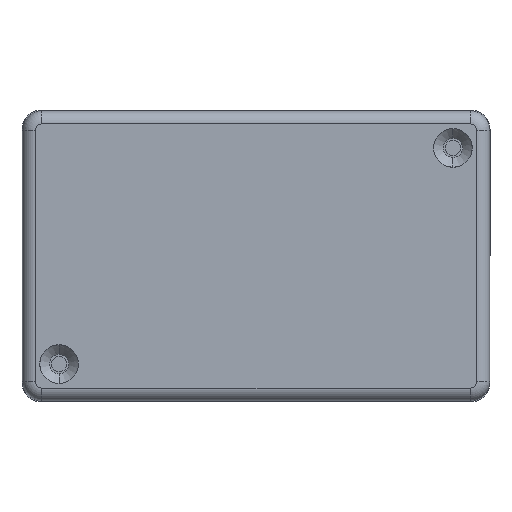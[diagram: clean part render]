
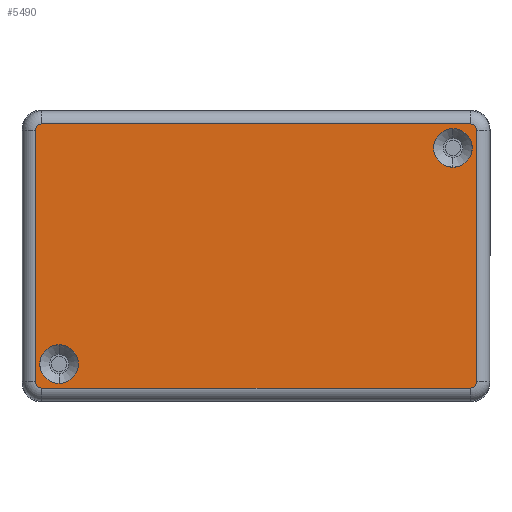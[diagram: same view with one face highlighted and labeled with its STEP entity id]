
A CAD part, front view. The second image highlights one B-rep face of the part: STEP entity #5490.
In plain terms, the highlighted planar face has unit normal (0, -1, 0).
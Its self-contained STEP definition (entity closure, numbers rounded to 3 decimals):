
#17 = DIRECTION ( 'NONE',  ( 0., -1., 0. ) ) ;
#66 = ORIENTED_EDGE ( 'NONE', *, *, #991, .T. ) ;
#67 = VERTEX_POINT ( 'NONE', #5310 ) ;
#123 = VECTOR ( 'NONE', #941, 1000. ) ;
#192 = DIRECTION ( 'NONE',  ( 0., 0., -1. ) ) ;
#216 = VERTEX_POINT ( 'NONE', #3667 ) ;
#221 = VECTOR ( 'NONE', #1489, 1000. ) ;
#252 = CARTESIAN_POINT ( 'NONE',  ( -34.2, -3., -19.45 ) ) ;
#465 = DIRECTION ( 'NONE',  ( 0., -1., 0. ) ) ;
#518 = EDGE_CURVE ( 'NONE', #216, #607, #1144, .T. ) ;
#528 = ORIENTED_EDGE ( 'NONE', *, *, #1509, .F. ) ;
#607 = VERTEX_POINT ( 'NONE', #1116 ) ;
#740 = VECTOR ( 'NONE', #869, 1000. ) ;
#751 = CARTESIAN_POINT ( 'NONE',  ( -30.5, -3., -19.75 ) ) ;
#794 = AXIS2_PLACEMENT_3D ( 'NONE', #2272, #976, #3912 ) ;
#834 = ORIENTED_EDGE ( 'NONE', *, *, #518, .F. ) ;
#847 = CARTESIAN_POINT ( 'NONE',  ( 34.2, -3., 19.45 ) ) ;
#860 = DIRECTION ( 'NONE',  ( 0., 0., -1. ) ) ;
#869 = DIRECTION ( 'NONE',  ( -1., 0., 0. ) ) ;
#905 = VERTEX_POINT ( 'NONE', #5047 ) ;
#911 = DIRECTION ( 'NONE',  ( 0., -1., 0. ) ) ;
#941 = DIRECTION ( 'NONE',  ( 0., 0., 1. ) ) ;
#976 = DIRECTION ( 'NONE',  ( 0., -1., 0. ) ) ;
#991 = EDGE_CURVE ( 'NONE', #905, #1096, #1870, .T. ) ;
#992 = DIRECTION ( 'NONE',  ( 0., 0., -1. ) ) ;
#1037 = AXIS2_PLACEMENT_3D ( 'NONE', #4865, #465, #992 ) ;
#1096 = VERTEX_POINT ( 'NONE', #2327 ) ;
#1098 = CIRCLE ( 'NONE', #3454, 3. ) ;
#1103 = AXIS2_PLACEMENT_3D ( 'NONE', #4115, #4937, #1970 ) ;
#1115 = ORIENTED_EDGE ( 'NONE', *, *, #2777, .F. ) ;
#1116 = CARTESIAN_POINT ( 'NONE',  ( 30.5, -3., 13.75 ) ) ;
#1144 = CIRCLE ( 'NONE', #3762, 3. ) ;
#1248 = DIRECTION ( 'NONE',  ( 0., -1., 0. ) ) ;
#1273 = DIRECTION ( 'NONE',  ( 0., -1., 0. ) ) ;
#1300 = ORIENTED_EDGE ( 'NONE', *, *, #4490, .T. ) ;
#1310 = LINE ( 'NONE', #4729, #740 ) ;
#1354 = VERTEX_POINT ( 'NONE', #751 ) ;
#1360 = AXIS2_PLACEMENT_3D ( 'NONE', #2613, #1273, #3820 ) ;
#1371 = CARTESIAN_POINT ( 'NONE',  ( -34.2, -3., 19.45 ) ) ;
#1489 = DIRECTION ( 'NONE',  ( 1., 0., 0. ) ) ;
#1509 = EDGE_CURVE ( 'NONE', #1643, #1354, #2417, .T. ) ;
#1544 = CARTESIAN_POINT ( 'NONE',  ( 33.2, -3., -20.45 ) ) ;
#1643 = VERTEX_POINT ( 'NONE', #5029 ) ;
#1870 = CIRCLE ( 'NONE', #794, 1. ) ;
#1873 = VERTEX_POINT ( 'NONE', #1371 ) ;
#1925 = EDGE_CURVE ( 'NONE', #1873, #4341, #3633, .T. ) ;
#1970 = DIRECTION ( 'NONE',  ( 0., 0., -1. ) ) ;
#1975 = DIRECTION ( 'NONE',  ( 0., -1., 0. ) ) ;
#2086 = VERTEX_POINT ( 'NONE', #847 ) ;
#2128 = FACE_BOUND ( 'NONE', #3304, .T. ) ;
#2133 = EDGE_LOOP ( 'NONE', ( #5193, #2804, #4781, #1300, #5247, #66, #4698, #3954 ) ) ;
#2209 = EDGE_CURVE ( 'NONE', #2086, #4749, #3834, .T. ) ;
#2272 = CARTESIAN_POINT ( 'NONE',  ( 33.2, -3., -19.45 ) ) ;
#2327 = CARTESIAN_POINT ( 'NONE',  ( 34.2, -3., -19.45 ) ) ;
#2361 = CIRCLE ( 'NONE', #1360, 1. ) ;
#2417 = CIRCLE ( 'NONE', #2689, 3. ) ;
#2519 = DIRECTION ( 'NONE',  ( 0., -1., 0. ) ) ;
#2613 = CARTESIAN_POINT ( 'NONE',  ( -33.2, -3., 19.45 ) ) ;
#2649 = AXIS2_PLACEMENT_3D ( 'NONE', #4723, #17, #860 ) ;
#2656 = VECTOR ( 'NONE', #192, 1000. ) ;
#2689 = AXIS2_PLACEMENT_3D ( 'NONE', #5509, #1975, #3224 ) ;
#2777 = EDGE_CURVE ( 'NONE', #1354, #1643, #4380, .T. ) ;
#2804 = ORIENTED_EDGE ( 'NONE', *, *, #5525, .T. ) ;
#2836 = AXIS2_PLACEMENT_3D ( 'NONE', #5529, #2519, #2989 ) ;
#2989 = DIRECTION ( 'NONE',  ( 0., 0., -1. ) ) ;
#3174 = CARTESIAN_POINT ( 'NONE',  ( 33.2, -3., 20.45 ) ) ;
#3224 = DIRECTION ( 'NONE',  ( 0., 0., -1. ) ) ;
#3273 = VERTEX_POINT ( 'NONE', #5423 ) ;
#3304 = EDGE_LOOP ( 'NONE', ( #3888, #834 ) ) ;
#3330 = EDGE_CURVE ( 'NONE', #67, #905, #4006, .T. ) ;
#3429 = CARTESIAN_POINT ( 'NONE',  ( 30.5, -3., 16.75 ) ) ;
#3454 = AXIS2_PLACEMENT_3D ( 'NONE', #3429, #1248, #4300 ) ;
#3511 = PLANE ( 'NONE',  #2649 ) ;
#3550 = CARTESIAN_POINT ( 'NONE',  ( 30.5, -3., 16.75 ) ) ;
#3601 = DIRECTION ( 'NONE',  ( 0., 0., -1. ) ) ;
#3633 = LINE ( 'NONE', #252, #2656 ) ;
#3667 = CARTESIAN_POINT ( 'NONE',  ( 30.5, -3., 19.75 ) ) ;
#3762 = AXIS2_PLACEMENT_3D ( 'NONE', #3550, #911, #3601 ) ;
#3820 = DIRECTION ( 'NONE',  ( 0., 0., -1. ) ) ;
#3834 = CIRCLE ( 'NONE', #2836, 1. ) ;
#3888 = ORIENTED_EDGE ( 'NONE', *, *, #5558, .F. ) ;
#3912 = DIRECTION ( 'NONE',  ( 0., 0., -1. ) ) ;
#3926 = FACE_BOUND ( 'NONE', #3985, .T. ) ;
#3954 = ORIENTED_EDGE ( 'NONE', *, *, #2209, .T. ) ;
#3985 = EDGE_LOOP ( 'NONE', ( #1115, #528 ) ) ;
#4003 = CARTESIAN_POINT ( 'NONE',  ( -34.2, -3., -19.45 ) ) ;
#4006 = LINE ( 'NONE', #1544, #221 ) ;
#4029 = LINE ( 'NONE', #4803, #123 ) ;
#4115 = CARTESIAN_POINT ( 'NONE',  ( -33.2, -3., -19.45 ) ) ;
#4125 = FACE_OUTER_BOUND ( 'NONE', #2133, .T. ) ;
#4284 = EDGE_CURVE ( 'NONE', #1096, #2086, #4029, .T. ) ;
#4300 = DIRECTION ( 'NONE',  ( 0., 0., -1. ) ) ;
#4341 = VERTEX_POINT ( 'NONE', #4003 ) ;
#4380 = CIRCLE ( 'NONE', #1037, 3. ) ;
#4490 = EDGE_CURVE ( 'NONE', #4341, #67, #4712, .T. ) ;
#4698 = ORIENTED_EDGE ( 'NONE', *, *, #4284, .T. ) ;
#4712 = CIRCLE ( 'NONE', #1103, 1. ) ;
#4723 = CARTESIAN_POINT ( 'NONE',  ( 33.2, -3., -19.45 ) ) ;
#4729 = CARTESIAN_POINT ( 'NONE',  ( 33.2, -3., 20.45 ) ) ;
#4749 = VERTEX_POINT ( 'NONE', #3174 ) ;
#4781 = ORIENTED_EDGE ( 'NONE', *, *, #1925, .T. ) ;
#4803 = CARTESIAN_POINT ( 'NONE',  ( 34.2, -3., -19.45 ) ) ;
#4865 = CARTESIAN_POINT ( 'NONE',  ( -30.5, -3., -16.75 ) ) ;
#4937 = DIRECTION ( 'NONE',  ( 0., -1., 0. ) ) ;
#5029 = CARTESIAN_POINT ( 'NONE',  ( -30.5, -3., -13.75 ) ) ;
#5047 = CARTESIAN_POINT ( 'NONE',  ( 33.2, -3., -20.45 ) ) ;
#5071 = EDGE_CURVE ( 'NONE', #4749, #3273, #1310, .T. ) ;
#5193 = ORIENTED_EDGE ( 'NONE', *, *, #5071, .T. ) ;
#5247 = ORIENTED_EDGE ( 'NONE', *, *, #3330, .T. ) ;
#5310 = CARTESIAN_POINT ( 'NONE',  ( -33.2, -3., -20.45 ) ) ;
#5423 = CARTESIAN_POINT ( 'NONE',  ( -33.2, -3., 20.45 ) ) ;
#5490 = ADVANCED_FACE ( 'NONE', ( #4125, #3926, #2128 ), #3511, .T. ) ;
#5509 = CARTESIAN_POINT ( 'NONE',  ( -30.5, -3., -16.75 ) ) ;
#5525 = EDGE_CURVE ( 'NONE', #3273, #1873, #2361, .T. ) ;
#5529 = CARTESIAN_POINT ( 'NONE',  ( 33.2, -3., 19.45 ) ) ;
#5558 = EDGE_CURVE ( 'NONE', #607, #216, #1098, .T. ) ;
